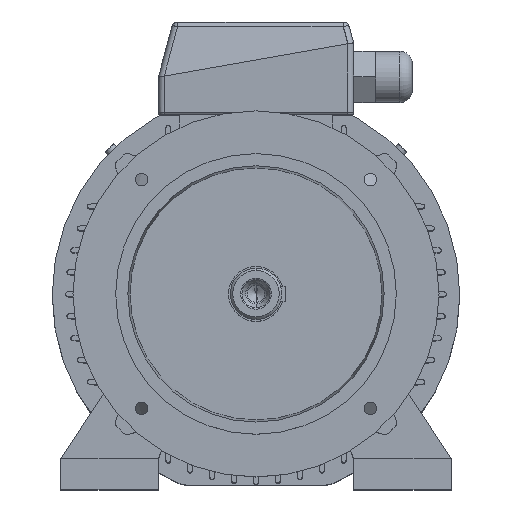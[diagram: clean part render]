
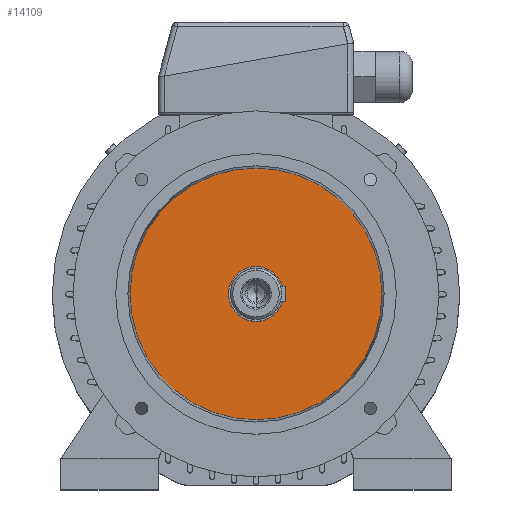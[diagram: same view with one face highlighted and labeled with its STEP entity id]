
A CAD part, top view. The second image highlights one B-rep face of the part: STEP entity #14109.
In plain terms, the highlighted planar face has unit normal (0, 0, 1).
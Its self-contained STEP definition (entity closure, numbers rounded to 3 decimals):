
#1705 = ORIENTED_EDGE ( 'NONE', *, *, #10246, .T. ) ;
#1830 = CIRCLE ( 'NONE', #1834, 103.25 ) ;
#1834 = AXIS2_PLACEMENT_3D ( 'NONE', #1835, #1836, #1837 ) ;
#1835 = CARTESIAN_POINT ( 'NONE',  ( 0., 0., 59. ) ) ;
#1836 = DIRECTION ( 'NONE',  ( 0., 0., 1. ) ) ;
#1837 = DIRECTION ( 'NONE',  ( 1., 0., 0. ) ) ;
#2280 = ORIENTED_EDGE ( 'NONE', *, *, #9250, .T. ) ;
#2860 = EDGE_LOOP ( 'NONE', ( #2280, #1705 ) ) ;
#3128 = ORIENTED_EDGE ( 'NONE', *, *, #12184, .F. ) ;
#3706 = EDGE_CURVE ( 'NONE', #11947, #13383, #15050, .T. ) ;
#4117 = ORIENTED_EDGE ( 'NONE', *, *, #3706, .F. ) ;
#4448 = CARTESIAN_POINT ( 'NONE',  ( 103.25, 0., 59. ) ) ;
#4539 = CARTESIAN_POINT ( 'NONE',  ( -103.25, 0., 59. ) ) ;
#5268 = CIRCLE ( 'NONE', #5269, 103.25 ) ;
#5269 = AXIS2_PLACEMENT_3D ( 'NONE', #5270, #5271, #5272 ) ;
#5270 = CARTESIAN_POINT ( 'NONE',  ( 0., 0., 59. ) ) ;
#5271 = DIRECTION ( 'NONE',  ( 0., 0., 1. ) ) ;
#5272 = DIRECTION ( 'NONE',  ( 1., 0., 0. ) ) ;
#7505 = CARTESIAN_POINT ( 'NONE',  ( 0., 22.5, 59. ) ) ;
#7611 = CIRCLE ( 'NONE', #7615, 22.5 ) ;
#7615 = AXIS2_PLACEMENT_3D ( 'NONE', #7616, #7617, #7618 ) ;
#7616 = CARTESIAN_POINT ( 'NONE',  ( 0., 0., 59. ) ) ;
#7617 = DIRECTION ( 'NONE',  ( 0., 0., 1. ) ) ;
#7618 = DIRECTION ( 'NONE',  ( 1., 0., 0. ) ) ;
#8242 = CARTESIAN_POINT ( 'NONE',  ( 0., -22.5, 59. ) ) ;
#8724 = FACE_BOUND ( 'NONE', #13835, .T. ) ;
#8725 = FACE_OUTER_BOUND ( 'NONE', #2860, .T. ) ;
#8726 = PLANE ( 'NONE',  #8727 ) ;
#8727 = AXIS2_PLACEMENT_3D ( 'NONE', #8728, #8729, #8730 ) ;
#8728 = CARTESIAN_POINT ( 'NONE',  ( 0., 115., 59. ) ) ;
#8729 = DIRECTION ( 'NONE',  ( 0., 0., 1. ) ) ;
#8730 = DIRECTION ( 'NONE',  ( 1., 0., 0. ) ) ;
#9250 = EDGE_CURVE ( 'NONE', #10130, #10186, #1830, .T. ) ;
#10130 = VERTEX_POINT ( 'NONE', #4448 ) ;
#10186 = VERTEX_POINT ( 'NONE', #4539 ) ;
#10246 = EDGE_CURVE ( 'NONE', #10186, #10130, #5268, .T. ) ;
#11947 = VERTEX_POINT ( 'NONE', #7505 ) ;
#12184 = EDGE_CURVE ( 'NONE', #13383, #11947, #7611, .T. ) ;
#13383 = VERTEX_POINT ( 'NONE', #8242 ) ;
#13835 = EDGE_LOOP ( 'NONE', ( #4117, #3128 ) ) ;
#14109 = ADVANCED_FACE ( 'NONE', ( #8724, #8725 ), #8726, .T. ) ;
#15050 = CIRCLE ( 'NONE', #15051, 22.5 ) ;
#15051 = AXIS2_PLACEMENT_3D ( 'NONE', #15052, #15053, #15054 ) ;
#15052 = CARTESIAN_POINT ( 'NONE',  ( 0., 0., 59. ) ) ;
#15053 = DIRECTION ( 'NONE',  ( 0., 0., 1. ) ) ;
#15054 = DIRECTION ( 'NONE',  ( 1., 0., 0. ) ) ;
